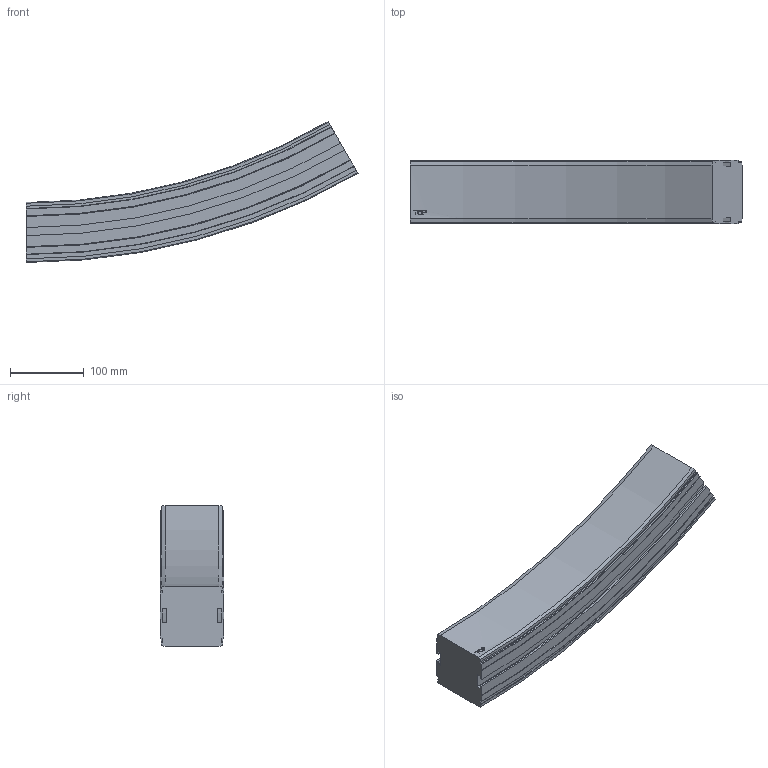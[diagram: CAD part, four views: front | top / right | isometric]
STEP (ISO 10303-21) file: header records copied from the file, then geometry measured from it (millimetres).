
FILE_DESCRIPTION((''),'2;1');
FILE_NAME('C:\Vault Klient\Projekt\Koncept konstruktion\Serie 830 Balk\830-5660_UP.stp','2009-11-27T11:17:55',('Mathias'),(''),'Autodesk Inventor 2010','Autodesk Inventor 2010','');
FILE_SCHEMA(('AUTOMOTIVE_DESIGN { 1 0 10303 214 1 1 1 1 }'));
Length unit declared in the file: millimetre
Products named in the file (1): 830-5660_UP
Bounding box: 451 x 86 x 191.43 mm (x, y, z)
Volume: 2997378.2 mm3; surface area: 197506.1 mm2
Topology: 1 solids, 1 shells, 93 faces, 258 edges, 172 vertices
Faces by surface type: plane 40, cylinder 23, bspline 14, cone 12, torus 4
Entity records: 3437 total; most frequent: CARTESIAN_POINT 1002, ORIENTED_EDGE 516, DIRECTION 472, EDGE_CURVE 258, VERTEX_POINT 172, AXIS2_PLACEMENT_3D 162, VECTOR 148, LINE 148
